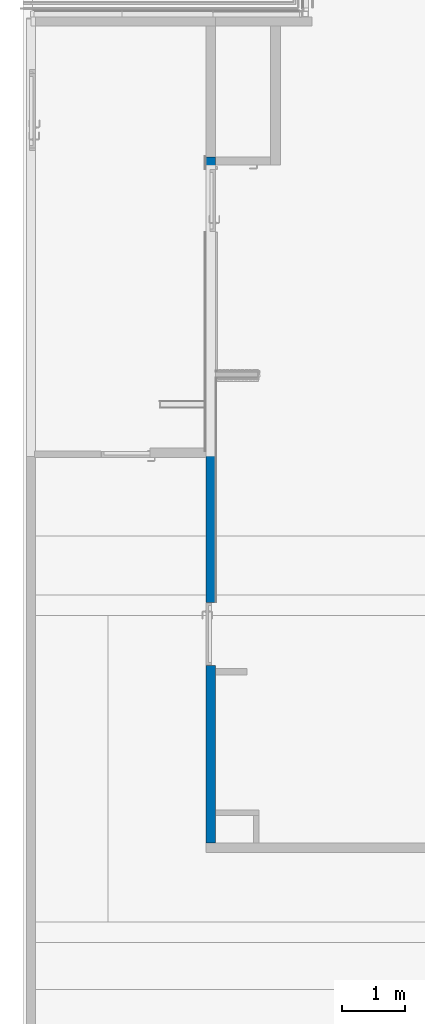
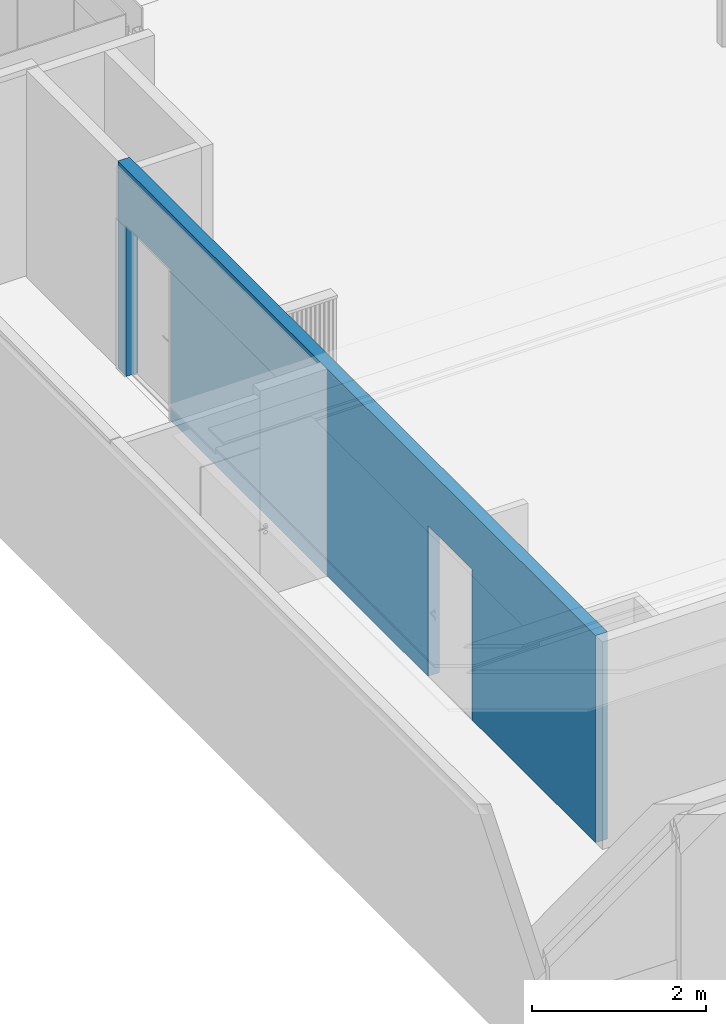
# One storey, part 22 of 37: 1 wall, 2 openings.
"""IFC2X3 building model written with IfcOpenShell, lengths in millimetres."""

import ifcopenshell
import ifcopenshell.guid

model = None  # the IFC model being written
_history = None  # IfcOwnerHistory: only IFC2X3 demands one
_inside = {}  # id of a spatial element -> (the spatial element, [elements in it])
_under = {}  # id of a project, library or spatial element -> (it, [spatial elements below it])
_declared = {}  # id of a project -> (the project, [libraries it declares])
_typed = {}  # id of a type object -> (the type object, [elements of that type])
_made_of = {}  # id of a material, layer set ... -> (it, [elements and type objects made of it])


def new_model(schema):
    """Start an empty IFC model of exactly this schema.

    Asked for "IFC4X3", IfcOpenShell would pick the latest addendum, in which some entities
    have other attributes; the version numbers below select the first issue.
    IFC2X3 requires an IfcOwnerHistory on every rooted entity: one is made here for all.
    """
    global model, _history
    if schema == "IFC4X3":
        model = ifcopenshell.file(schema_version=(4, 3, 0, 0))
    else:
        model = ifcopenshell.file(schema=schema)
    _inside.clear()
    _under.clear()
    _declared.clear()
    _typed.clear()
    _made_of.clear()
    _history = None
    if model.schema == "IFC2X3":
        org = make("IfcOrganization", Name="unknown")
        user = make(
            "IfcPersonAndOrganization",
            ThePerson=make("IfcPerson", FamilyName="unknown"),
            TheOrganization=org,
        )
        app = make(
            "IfcApplication",
            ApplicationDeveloper=org,
            Version="unknown",
            ApplicationFullName="unknown",
            ApplicationIdentifier="unknown",
        )
        _history = make(
            "IfcOwnerHistory",
            OwningUser=user,
            OwningApplication=app,
            ChangeAction="ADDED",
            CreationDate=0,
        )
    return model


def make(cls, **values):
    """One entity of the class cls with the attributes given. An attribute that is None is left unset."""
    return model.create_entity(
        cls, **{name: value for name, value in values.items() if value is not None}
    )


def entity(cls, *values):
    """Any entity or typed value of the class cls, its attributes in the order of the schema. None: left unset."""
    e = model.create_entity(cls)
    for i, value in enumerate(values):
        if value is not None:
            e[i] = value
    return e


def rooted(cls, **values):
    """An entity with a GlobalId (a new one), such as an element, a storey or a relation."""
    return make(cls, GlobalId=ifcopenshell.guid.new(), OwnerHistory=_history, **values)


def si_unit(unit_type, name, prefix=None):
    """IfcSIUnit, for example si_unit("LENGTHUNIT", "METRE", prefix="MILLI")."""
    return make("IfcSIUnit", UnitType=unit_type, Prefix=prefix, Name=name)


def converted_unit(unit_type, name, factor, base, dimensions=None, offset=None):
    """IfcConversionBasedUnit, such as the inch: factor (a typed value) times the base unit."""
    return make(
        "IfcConversionBasedUnit"
        if offset is None
        else "IfcConversionBasedUnitWithOffset",
        ConversionOffset=offset,
        Dimensions=None
        if dimensions is None
        else entity("IfcDimensionalExponents", *dimensions),
        UnitType=unit_type,
        Name=name,
        ConversionFactor=make(
            "IfcMeasureWithUnit", ValueComponent=factor, UnitComponent=base
        ),
    )


def derived_unit(unit_type, elements):
    """IfcDerivedUnit: a product of units, each with its exponent."""
    return make(
        "IfcDerivedUnit",
        Elements=[
            make("IfcDerivedUnitElement", Unit=unit, Exponent=power)
            for unit, power in elements
        ],
        UnitType=unit_type,
    )


def assignment(units):
    """IfcUnitAssignment: the units of a project."""
    return None if units is None else make("IfcUnitAssignment", Units=units)


def point(xyz):
    """IfcCartesianPoint."""
    return None if xyz is None else make("IfcCartesianPoint", Coordinates=xyz)


def direction(xyz):
    """IfcDirection."""
    return None if xyz is None else make("IfcDirection", DirectionRatios=xyz)


def frame(location, z_axis=None, x_axis=None):
    """IfcAxis2Placement3D, a coordinate frame: its origin and axes. An axis left out is left unset."""
    return make(
        "IfcAxis2Placement3D",
        Location=point(location),
        Axis=direction(z_axis),
        RefDirection=direction(x_axis),
    )


def frame_2d(location, x_axis=None):
    """IfcAxis2Placement2D, a coordinate frame in the plane: its origin and x axis."""
    return make(
        "IfcAxis2Placement2D", Location=point(location), RefDirection=direction(x_axis)
    )


def origin():
    """The frame at (0, 0, 0) with its axes left unset."""
    return frame((0.0, 0.0, 0.0))


def origin_with_axes():
    """The frame at (0, 0, 0) with the z axis (0, 0, 1) and the x axis (1, 0, 0) written out."""
    return frame((0.0, 0.0, 0.0), z_axis=(0.0, 0.0, 1.0), x_axis=(1.0, 0.0, 0.0))


def place(relative_to, where):
    """IfcLocalPlacement: puts the frame where relative to a parent placement (None: the world)."""
    return make(
        "IfcLocalPlacement", PlacementRelTo=relative_to, RelativePlacement=where
    )


def context(
    kind, dimensions, precision=None, world=None, true_north=None, identifier=None
):
    """IfcGeometricRepresentationContext, for example the 3D "Model" context."""
    return make(
        "IfcGeometricRepresentationContext",
        ContextIdentifier=identifier,
        ContextType=kind,
        CoordinateSpaceDimension=dimensions,
        Precision=precision,
        WorldCoordinateSystem=world,
        TrueNorth=true_north,
    )


def subcontext(parent, identifier, kind, view, scale=None):
    """IfcGeometricRepresentationSubContext, for example "Body" below "Model"."""
    return make(
        "IfcGeometricRepresentationSubContext",
        ContextIdentifier=identifier,
        ContextType=kind,
        ParentContext=parent,
        TargetScale=scale,
        TargetView=view,
    )


def project(units=None, contexts=None):
    """IfcProject with its units and contexts."""
    return rooted(
        "IfcProject",
        Name="project",
        RepresentationContexts=contexts,
        UnitsInContext=assignment(units),
    )


def spatial(cls, under=None, at=None, **own):
    """A site, building, storey or space (cls), placed at a placement, below another one or the project."""
    s = rooted(cls, ObjectPlacement=at, **own)
    if under is not None:
        _under.setdefault(under.id(), (under, []))[1].append(s)
    return s


def profile(cls, at=None, kind="AREA", **sizes):
    """A parametric profile (cls). Its sizes go by their IFC names, for example OverallWidth=200.0."""
    return make(cls, ProfileType=kind, Position=at, **sizes)


def rectangle(**sizes):
    """IfcRectangleProfileDef."""
    return profile("IfcRectangleProfileDef", **sizes)


def extrude(swept, where, along, depth):
    """IfcExtrudedAreaSolid: the profile swept, set in the frame where, extruded along a direction by depth."""
    return make(
        "IfcExtrudedAreaSolid",
        SweptArea=swept,
        Position=where,
        ExtrudedDirection=direction(along),
        Depth=depth,
    )


def shape(context_of_items, identifier, shape_type, items):
    """IfcShapeRepresentation: the items that make up one representation, for example the "Body"."""
    return make(
        "IfcShapeRepresentation",
        ContextOfItems=context_of_items,
        RepresentationIdentifier=identifier,
        RepresentationType=shape_type,
        Items=items,
    )


def material(Name=None, Category=None):
    """IfcMaterial."""
    return make("IfcMaterial", Name=Name, Category=Category)


def layer(
    of_material, thickness, ventilated=None, Name=None, Category=None, Priority=None
):
    """IfcMaterialLayer: one layer of a wall or slab, of a material (None: an air gap)."""
    return make(
        "IfcMaterialLayer",
        Material=of_material,
        LayerThickness=thickness,
        IsVentilated=ventilated,
        Name=Name,
        Category=Category,
        Priority=Priority,
    )


def layer_set(layers, Name=None):
    """IfcMaterialLayerSet."""
    return make("IfcMaterialLayerSet", MaterialLayers=layers, LayerSetName=Name)


def layer_usage(for_layer_set, set_direction, sense, offset, extent=None):
    """IfcMaterialLayerSetUsage: how a layer set lies in its element."""
    return make(
        "IfcMaterialLayerSetUsage",
        ForLayerSet=for_layer_set,
        LayerSetDirection=set_direction,
        DirectionSense=sense,
        OffsetFromReferenceLine=offset,
        ReferenceExtent=extent,
    )


def made_of(thing, what):
    """Note that an element or type object is made of a material, layer set ...; save() writes the relation."""
    if what is not None:
        _made_of.setdefault(what.id(), (what, []))[1].append(thing)
    return thing


def type_object(cls, material=None, **own):
    """A type object (cls), such as IfcWallType, which elements share."""
    return made_of(rooted(cls, **own), material)


def element(
    cls,
    number,
    at=None,
    inside=None,
    cuts=None,
    type_object=None,
    material=None,
    context=None,
    identifier="Body",
    shape_type=None,
    held_by="IfcProductDefinitionShape",
    body=None,
    shapes=None,
    **own,
):
    """One element of the class cls, such as IfcWall. Its Tag is "e" and its number.

    at: its placement. inside: the storey or other place that contains it. cuts: it is an
    opening in that element (IfcRelVoidsElement). A single representation is given by context,
    identifier, shape_type and body (its items); several are given by shapes. held_by: the class
    of the entity that holds the representations. save() writes the other relations.
    """
    e = rooted(cls, Tag="e%d" % number, ObjectPlacement=at, **own)
    if body is not None:
        shapes = [shape(context, identifier, shape_type, body)]
    if shapes is not None:
        e.Representation = make(held_by, Representations=shapes)
    if inside is not None:
        _inside.setdefault(inside.id(), (inside, []))[1].append(e)
    if cuts is not None:
        rooted(
            "IfcRelVoidsElement", RelatingBuildingElement=cuts, RelatedOpeningElement=e
        )
    if type_object is not None:
        _typed.setdefault(type_object.id(), (type_object, []))[1].append(e)
    return made_of(e, material)


def aggregate(whole, parts):
    """IfcRelAggregates: a whole, such as a stair, and the parts it consists of."""
    return rooted("IfcRelAggregates", RelatingObject=whole, RelatedObjects=parts)


def save(model, path):
    """Write the relations noted so far, then the file.

    IfcRelAggregates (storeys below a building ...), IfcRelContainedInSpatialStructure (elements
    in a storey), IfcRelDefinesByType, IfcRelAssociatesMaterial and IfcRelDeclares: one each for
    every whole, place, type object, material and project.
    """
    for whole, parts in _under.values():
        aggregate(whole, parts)
    for where, things in _inside.values():
        rooted(
            "IfcRelContainedInSpatialStructure",
            RelatedElements=things,
            RelatingStructure=where,
        )
    for kind, things in _typed.values():
        rooted("IfcRelDefinesByType", RelatedObjects=things, RelatingType=kind)
    for what, things in _made_of.values():
        rooted("IfcRelAssociatesMaterial", RelatedObjects=things, RelatingMaterial=what)
    for by, libraries in _declared.values():
        rooted("IfcRelDeclares", RelatingContext=by, RelatedDefinitions=libraries)
    model.write(path)


model = new_model("IFC2X3")

# Units and contexts
model_context = context("Model", 3, precision=0.01, world=frame((0.0, 4.29681676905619e-09, 0.0)), true_north=direction((4.01073788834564e-13, 1.0)))
plan_context = context("Plan", 3, precision=0.01, world=frame((0.0, 4.29681676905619e-09, 0.0)), true_north=direction((4.01073788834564e-13, 1.0)))
body_context = subcontext(model_context, "Body", "Model", "MODEL_VIEW")
ifc_project = project(units=[converted_unit("PLANEANGLEUNIT", "DEGREE", entity("IfcPositiveLengthMeasure", 0.0174532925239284), si_unit("PLANEANGLEUNIT", "RADIAN"), dimensions=[0, 0, 0, 0, 0, 0, 0]), si_unit("AREAUNIT", "SQUARE_METRE"), si_unit("LENGTHUNIT", "METRE", prefix="MILLI"), si_unit("MASSUNIT", "GRAM", prefix="KILO"), si_unit("POWERUNIT", "WATT"), si_unit("PRESSUREUNIT", "PASCAL"), si_unit("FORCEUNIT", "NEWTON", prefix="KILO"), si_unit("ELECTRICVOLTAGEUNIT", "VOLT"), si_unit("ELECTRICCURRENTUNIT", "AMPERE"), si_unit("THERMODYNAMICTEMPERATUREUNIT", "DEGREE_CELSIUS"), si_unit("TIMEUNIT", "SECOND"), si_unit("VOLUMEUNIT", "CUBIC_METRE"), derived_unit("LINEARVELOCITYUNIT", [(si_unit("LENGTHUNIT", "METRE"), 1), (si_unit("TIMEUNIT", "SECOND"), -1)]), derived_unit("VOLUMETRICFLOWRATEUNIT", [(si_unit("VOLUMEUNIT", "CUBIC_METRE"), 1), (si_unit("TIMEUNIT", "SECOND"), -1)]), derived_unit("THERMALTRANSMITTANCEUNIT", [(si_unit("POWERUNIT", "WATT"), 1), (si_unit("THERMODYNAMICTEMPERATUREUNIT", "KELVIN"), -1), (si_unit("AREAUNIT", "SQUARE_METRE"), -1)]), derived_unit("SOUNDPRESSUREUNIT", [(si_unit("PRESSUREUNIT", "PASCAL"), 1)])], contexts=[model_context, plan_context])

# Site, building, storey
site_placement = place(None, origin_with_axes())
site = spatial("IfcSite", under=ifc_project, at=site_placement, Name="ENGM", CompositionType="ELEMENT")
building_placement = place(site_placement, origin_with_axes())
building = spatial("IfcBuilding", under=site, at=building_placement, Name="TS", CompositionType="ELEMENT")
storey_placement = place(building_placement, frame((0.0, 0.0, 210900.0), z_axis=(0.0, 0.0, 1.0), x_axis=(1.0, 0.0, 0.0)))
storey = spatial("IfcBuildingStorey", under=building, at=storey_placement, Name="Nivå F", CompositionType="ELEMENT", Elevation=210900.0)

# Wall, openings
ifc_material_1 = material(Name="Plate - Gips")
ifc_layer_1 = layer(ifc_material_1, 12.5)
ifc_material_2 = material(Name="_NSW X-finer")
ifc_layer_2 = layer(ifc_material_2, 15.0)
ifc_material_3 = material(Name="_NSW Stålstender, isolert UTEN SKRAVUR")
ifc_layer_3 = layer(ifc_material_3, 100.0)
ifc_layer_4 = layer(ifc_material_2, 15.0)
ifc_layer_5 = layer(ifc_material_1, 12.5)
ifc_layer_set = layer_set([ifc_layer_1, ifc_layer_2, ifc_layer_3, ifc_layer_4, ifc_layer_5], Name="Basic Wall:A241 - SXVXS-100")
ifc_layer_usage = layer_usage(ifc_layer_set, "AXIS2", "NEGATIVE", 77.5)
wall_type = type_object("IfcWallType", Name="Basic Wall:A241 - SXVXS-100", PredefinedType="STANDARD", material=ifc_layer_set)
wall_placement = place(storey_placement, frame((523457.000000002, 444462.500000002, 0.0), z_axis=(0.0, 0.0, 1.0), x_axis=(0.0, 1.0, 0.0)))
wall = element("IfcWallStandardCase", 1, at=wall_placement, inside=storey, type_object=wall_type, material=ifc_layer_usage, Name="Basic Wall:A241 - SXVXS-100", ObjectType="Basic Wall:A241 - SXVXS-100", context=body_context, shape_type="SweptSolid", body=[
    extrude(rectangle(XDim=10952.3405199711, YDim=155.000000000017, at=frame_2d((5476.17025998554, 0.0), x_axis=(1.0, 0.0))), origin(), (0.0, 0.0, 1.0), 2899.99999999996),
])
opening_1_placement = place(wall_placement, frame((10761.3405199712, 77.5000000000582, 0.0), z_axis=(0.0, 0.0, 1.0), x_axis=(1.0, 0.0, 0.0)))
element("IfcOpeningElement", 2, at=opening_1_placement, cuts=wall, Name="A20 - Slagdør - Enkel:A243 - DI_LTO - 0990 x 2090mm:1", ObjectType="Opening", context=body_context, shape_type="SweptSolid", body=[
    extrude(rectangle(XDim=2109.99999999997, YDim=1010.0, at=frame_2d((1054.99999999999, 505.0), x_axis=(1.0, 0.0))), frame((0.0, 0.0, 0.0), z_axis=(0.0, -1.0, 0.0), x_axis=(0.0, 0.0, 1.0)), (0.0, 0.0, 1.0), 155.0),
])
opening_2_placement = place(wall_placement, frame((2832.0, -77.4999999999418, 0.0), z_axis=(0.0, 0.0, 1.0), x_axis=(1.0, 0.0, 0.0)))
element("IfcOpeningElement", 3, at=opening_2_placement, cuts=wall, Name="A20 - Slagdør - Enkel:A243 - DI_LTO - 0990 x 2090mm:1", ObjectType="Opening", context=body_context, shape_type="SweptSolid", body=[
    extrude(rectangle(XDim=2109.99999999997, YDim=1010.0, at=frame_2d((1054.99999999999, 505.0), x_axis=(1.0, 0.0))), frame((0.0, 0.0, 0.0), z_axis=(0.0, 1.0, 0.0), x_axis=(0.0, 0.0, 1.0)), (0.0, 0.0, 1.0), 155.0),
])

save(model, "model.ifc")
